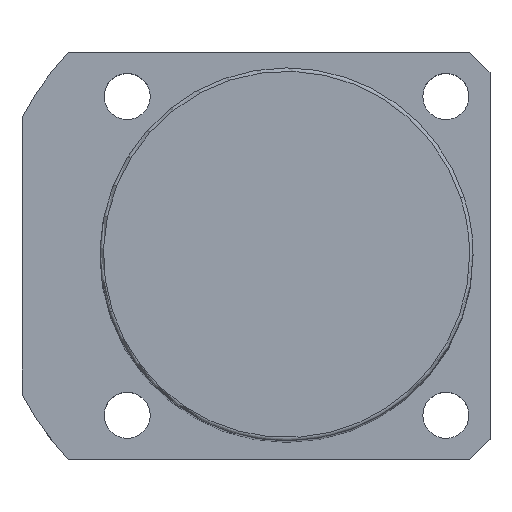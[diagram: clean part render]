
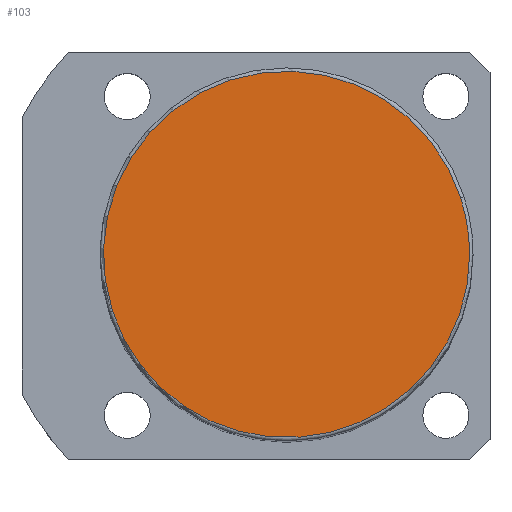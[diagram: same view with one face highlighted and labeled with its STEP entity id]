
A CAD part, top view. The second image highlights one B-rep face of the part: STEP entity #103.
In plain terms, the highlighted planar face has unit normal (0, 0, 1).
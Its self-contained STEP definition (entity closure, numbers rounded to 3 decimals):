
#16=CARTESIAN_POINT('',(-25.679,-8.343,136.0));
#17=VERTEX_POINT('',#16);
#54=CARTESIAN_POINT('',(25.679,8.343,136.0));
#55=VERTEX_POINT('',#54);
#63=CARTESIAN_POINT('',(27.0,0.0,136.0));
#64=VERTEX_POINT('',#63);
#65=CARTESIAN_POINT('',(0.0,0.0,136.0));
#66=DIRECTION('',(0.0,0.0,1.0));
#67=DIRECTION('',(1.0,0.0,0.0));
#68=AXIS2_PLACEMENT_3D('',#65,#66,#67);
#69=CIRCLE('',#68,27.0);
#70=EDGE_CURVE('no 898',#64,#55,#69,.T.);
#72=CARTESIAN_POINT('',(0.0,0.0,136.0));
#73=DIRECTION('',(0.0,0.0,1.0));
#74=DIRECTION('',(1.0,0.0,0.0));
#75=AXIS2_PLACEMENT_3D('',#72,#73,#74);
#76=CIRCLE('',#75,27.0);
#77=EDGE_CURVE('no 902',#17,#64,#76,.T.);
#87=ORIENTED_EDGE('',*,*,#70,.T.);
#88=CARTESIAN_POINT('',(0.0,0.0,136.0));
#89=DIRECTION('',(0.0,0.0,1.0));
#90=DIRECTION('',(1.0,0.0,0.0));
#91=AXIS2_PLACEMENT_3D('',#88,#89,#90);
#92=CIRCLE('',#91,27.0);
#93=EDGE_CURVE('no 911',#55,#17,#92,.T.);
#94=ORIENTED_EDGE('',*,*,#93,.T.);
#95=ORIENTED_EDGE('',*,*,#77,.T.);
#96=EDGE_LOOP('',(#87,#94,#95));
#97=FACE_OUTER_BOUND('',#96,.T.);
#98=CARTESIAN_POINT('',(0.0,0.0,136.0));
#99=DIRECTION('',(0.0,0.0,1.0));
#100=DIRECTION('',(1.0,0.0,0.0));
#101=AXIS2_PLACEMENT_3D('',#98,#99,#100);
#102=PLANE('',#101);
#103=ADVANCED_FACE('no 904',(#97),#102,.T.);
